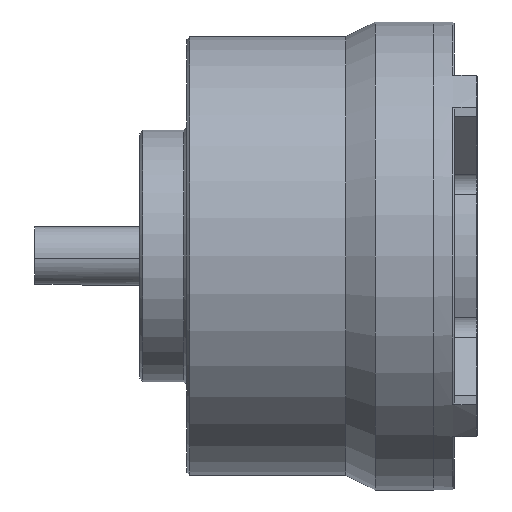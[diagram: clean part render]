
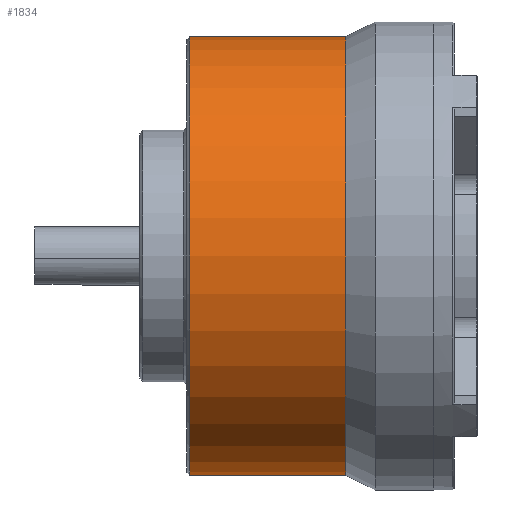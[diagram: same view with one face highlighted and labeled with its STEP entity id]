
A CAD part, left-side view. The second image highlights one B-rep face of the part: STEP entity #1834.
In plain terms, the highlighted cylindrical face has radius 37.5 mm (diameter 75 mm), a partial arc.
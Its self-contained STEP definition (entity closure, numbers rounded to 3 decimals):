
#157 = CARTESIAN_POINT ( 'NONE',  ( 0., 41.7, -37.5 ) ) ;
#602 = VERTEX_POINT ( 'NONE', #3453 ) ;
#617 = ORIENTED_EDGE ( 'NONE', *, *, #3443, .F. ) ;
#732 = DIRECTION ( 'NONE',  ( 0., 0., -1. ) ) ;
#763 = CYLINDRICAL_SURFACE ( 'NONE', #4794, 37.5 ) ;
#1112 = CARTESIAN_POINT ( 'NONE',  ( 0., 15., 37.5 ) ) ;
#1395 = DIRECTION ( 'NONE',  ( 0., -1., 0. ) ) ;
#1571 = CIRCLE ( 'NONE', #4450, 37.5 ) ;
#1751 = AXIS2_PLACEMENT_3D ( 'NONE', #4637, #1989, #4126 ) ;
#1834 = ADVANCED_FACE ( 'NONE', ( #5943 ), #763, .T. ) ;
#1989 = DIRECTION ( 'NONE',  ( 0., -1., 0. ) ) ;
#1991 = CIRCLE ( 'NONE', #1751, 37.5 ) ;
#2104 = EDGE_LOOP ( 'NONE', ( #617, #2893, #2872, #6826 ) ) ;
#2179 = CARTESIAN_POINT ( 'NONE',  ( 0., 0., 37.5 ) ) ;
#2267 = CARTESIAN_POINT ( 'NONE',  ( 0., 0., 0. ) ) ;
#2296 = DIRECTION ( 'NONE',  ( 0., -1., 0. ) ) ;
#2367 = VECTOR ( 'NONE', #6479, 1000. ) ;
#2872 = ORIENTED_EDGE ( 'NONE', *, *, #4305, .T. ) ;
#2893 = ORIENTED_EDGE ( 'NONE', *, *, #3335, .T. ) ;
#3099 = VERTEX_POINT ( 'NONE', #3216 ) ;
#3216 = CARTESIAN_POINT ( 'NONE',  ( 0., 15., -37.5 ) ) ;
#3335 = EDGE_CURVE ( 'NONE', #602, #3651, #1571, .T. ) ;
#3347 = VECTOR ( 'NONE', #6280, 1000. ) ;
#3443 = EDGE_CURVE ( 'NONE', #602, #6415, #5894, .T. ) ;
#3453 = CARTESIAN_POINT ( 'NONE',  ( 0., 41.7, 37.5 ) ) ;
#3557 = DIRECTION ( 'NONE',  ( 0., 0., 1. ) ) ;
#3651 = VERTEX_POINT ( 'NONE', #157 ) ;
#4126 = DIRECTION ( 'NONE',  ( 0., 0., -1. ) ) ;
#4305 = EDGE_CURVE ( 'NONE', #3651, #3099, #4314, .T. ) ;
#4314 = LINE ( 'NONE', #6390, #2367 ) ;
#4450 = AXIS2_PLACEMENT_3D ( 'NONE', #6761, #1395, #3557 ) ;
#4637 = CARTESIAN_POINT ( 'NONE',  ( 0., 15., 0. ) ) ;
#4794 = AXIS2_PLACEMENT_3D ( 'NONE', #2267, #2296, #732 ) ;
#5894 = LINE ( 'NONE', #2179, #3347 ) ;
#5943 = FACE_OUTER_BOUND ( 'NONE', #2104, .T. ) ;
#5967 = EDGE_CURVE ( 'NONE', #6415, #3099, #1991, .T. ) ;
#6280 = DIRECTION ( 'NONE',  ( 0., -1., 0. ) ) ;
#6390 = CARTESIAN_POINT ( 'NONE',  ( 0., 0., -37.5 ) ) ;
#6415 = VERTEX_POINT ( 'NONE', #1112 ) ;
#6479 = DIRECTION ( 'NONE',  ( 0., -1., 0. ) ) ;
#6761 = CARTESIAN_POINT ( 'NONE',  ( 0., 41.7, 0. ) ) ;
#6826 = ORIENTED_EDGE ( 'NONE', *, *, #5967, .F. ) ;
